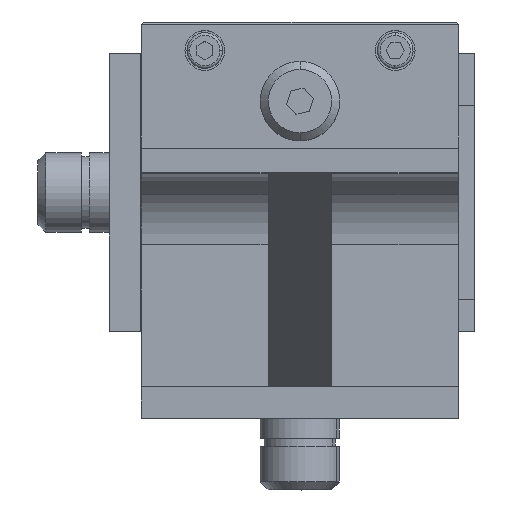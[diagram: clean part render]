
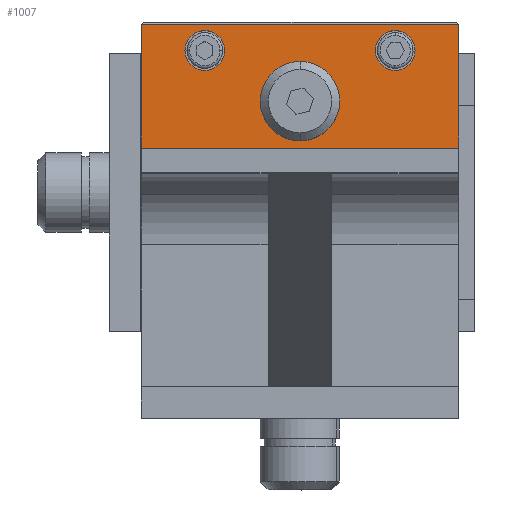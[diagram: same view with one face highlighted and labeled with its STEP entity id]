
A CAD part, top view. The second image highlights one B-rep face of the part: STEP entity #1007.
In plain terms, the highlighted planar face has unit normal (0, 0, 1).
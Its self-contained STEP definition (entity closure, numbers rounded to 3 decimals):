
#1007=ADVANCED_FACE('',(#2225,#2226,#2227,#2228),#2229,.F.);
#2225=FACE_OUTER_BOUND('',#3806,.T.);
#2226=FACE_BOUND('',#3807,.T.);
#2227=FACE_BOUND('',#3808,.T.);
#2228=FACE_BOUND('',#3809,.T.);
#2229=PLANE('',#3810);
#3806=EDGE_LOOP('',(#6152,#6153,#6154,#6155));
#3807=EDGE_LOOP('',(#6156,#6157));
#3808=EDGE_LOOP('',(#6158,#6159));
#3809=EDGE_LOOP('',(#6160,#6161));
#3810=AXIS2_PLACEMENT_3D('',#6162,#6163,#6164);
#6152=ORIENTED_EDGE('',*,*,#9220,.T.);
#6153=ORIENTED_EDGE('',*,*,#9221,.T.);
#6154=ORIENTED_EDGE('',*,*,#9222,.T.);
#6155=ORIENTED_EDGE('',*,*,#9210,.T.);
#6156=ORIENTED_EDGE('',*,*,#9223,.F.);
#6157=ORIENTED_EDGE('',*,*,#9204,.F.);
#6158=ORIENTED_EDGE('',*,*,#9224,.F.);
#6159=ORIENTED_EDGE('',*,*,#9184,.F.);
#6160=ORIENTED_EDGE('',*,*,#9225,.F.);
#6161=ORIENTED_EDGE('',*,*,#9189,.F.);
#6162=CARTESIAN_POINT('',(0.,15.6,4.));
#6163=DIRECTION('',(0.,0.,-1.0));
#6164=DIRECTION('',(0.0,-1.0,0.));
#9184=EDGE_CURVE('',#10931,#10934,#10935,.T.);
#9189=EDGE_CURVE('',#10940,#10943,#10944,.T.);
#9204=EDGE_CURVE('',#10967,#10970,#10971,.T.);
#9210=EDGE_CURVE('',#10981,#10979,#10982,.T.);
#9220=EDGE_CURVE('',#10979,#10994,#10995,.T.);
#9221=EDGE_CURVE('',#10994,#10996,#10997,.T.);
#9222=EDGE_CURVE('',#10996,#10981,#10998,.T.);
#9223=EDGE_CURVE('',#10970,#10967,#10999,.T.);
#9224=EDGE_CURVE('',#10934,#10931,#11000,.T.);
#9225=EDGE_CURVE('',#10943,#10940,#11001,.T.);
#10931=VERTEX_POINT('',#13572);
#10934=VERTEX_POINT('',#13576);
#10935=CIRCLE('',#13577,2.5);
#10940=VERTEX_POINT('',#13583);
#10943=VERTEX_POINT('',#13587);
#10944=CIRCLE('',#13588,2.5);
#10967=VERTEX_POINT('',#13616);
#10970=VERTEX_POINT('',#13620);
#10971=CIRCLE('',#13621,2.0);
#10979=VERTEX_POINT('',#13631);
#10981=VERTEX_POINT('',#13634);
#10982=LINE('',#13635,#13636);
#10994=VERTEX_POINT('',#13652);
#10995=LINE('',#13653,#13654);
#10996=VERTEX_POINT('',#13655);
#10997=LINE('',#13656,#13657);
#10998=LINE('',#13658,#13659);
#10999=CIRCLE('',#13660,2.0);
#11000=CIRCLE('',#13661,2.5);
#11001=CIRCLE('',#13662,2.5);
#13572=CARTESIAN_POINT('',(-29.5,12.3,4.));
#13576=CARTESIAN_POINT('',(-34.5,12.3,4.));
#13577=AXIS2_PLACEMENT_3D('',#16353,#16354,#16355);
#13583=CARTESIAN_POINT('',(-5.5,12.3,4.));
#13587=CARTESIAN_POINT('',(-10.5,12.3,4.));
#13588=AXIS2_PLACEMENT_3D('',#16361,#16362,#16363);
#13616=CARTESIAN_POINT('',(-18.,5.9,4.));
#13620=CARTESIAN_POINT('',(-22.0,5.9,4.));
#13621=AXIS2_PLACEMENT_3D('',#16385,#16386,#16387);
#13631=CARTESIAN_POINT('',(0.,0.,4.));
#13634=CARTESIAN_POINT('',(-40.,0.,4.));
#13635=CARTESIAN_POINT('',(0.,0.,4.));
#13636=VECTOR('',#16394,1000.0);
#13652=CARTESIAN_POINT('',(0.,15.6,4.));
#13653=CARTESIAN_POINT('',(0.,15.6,4.));
#13654=VECTOR('',#16408,1000.0);
#13655=CARTESIAN_POINT('',(-40.,15.6,4.));
#13656=CARTESIAN_POINT('',(0.,15.6,4.));
#13657=VECTOR('',#16409,1000.0);
#13658=CARTESIAN_POINT('',(-40.,15.6,4.));
#13659=VECTOR('',#16410,1000.0);
#13660=AXIS2_PLACEMENT_3D('',#16411,#16412,#16413);
#13661=AXIS2_PLACEMENT_3D('',#16414,#16415,#16416);
#13662=AXIS2_PLACEMENT_3D('',#16417,#16418,#16419);
#16353=CARTESIAN_POINT('',(-32.,12.3,4.));
#16354=DIRECTION('',(0.,0.,1.0));
#16355=DIRECTION('',(1.0,0.,0.));
#16361=CARTESIAN_POINT('',(-8.,12.3,4.));
#16362=DIRECTION('',(0.,0.,1.0));
#16363=DIRECTION('',(1.0,0.,0.));
#16385=CARTESIAN_POINT('',(-20.,5.9,4.));
#16386=DIRECTION('',(0.,0.,1.0));
#16387=DIRECTION('',(1.0,0.,0.));
#16394=DIRECTION('',(1.0,0.,0.));
#16408=DIRECTION('',(0.,1.0,0.));
#16409=DIRECTION('',(-1.0,0.,0.));
#16410=DIRECTION('',(0.,-1.0,0.));
#16411=CARTESIAN_POINT('',(-20.,5.9,4.));
#16412=DIRECTION('',(0.,0.,1.0));
#16413=DIRECTION('',(1.0,0.,0.));
#16414=CARTESIAN_POINT('',(-32.,12.3,4.));
#16415=DIRECTION('',(0.,0.,1.0));
#16416=DIRECTION('',(1.0,0.,0.));
#16417=CARTESIAN_POINT('',(-8.,12.3,4.));
#16418=DIRECTION('',(0.,0.,1.0));
#16419=DIRECTION('',(1.0,0.,0.));
